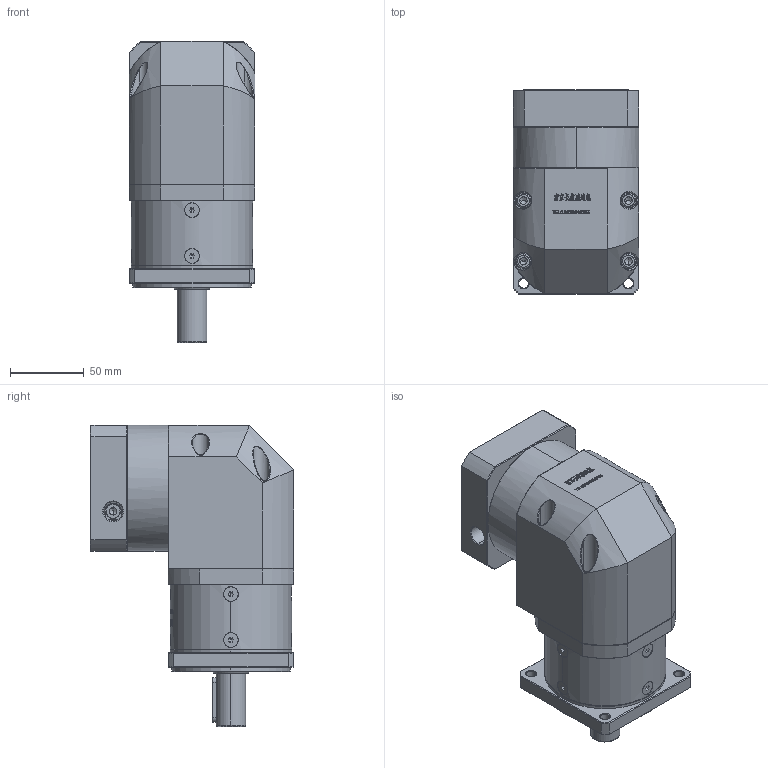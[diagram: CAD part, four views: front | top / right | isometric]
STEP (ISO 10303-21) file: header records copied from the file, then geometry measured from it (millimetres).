
FILE_DESCRIPTION (( 'STEP AP214' ), '1' );
FILE_NAME ('ZF80-D20-L1-19-70-90-M5.step', '2022-05-08T11:56:52', ( '' ), ( 'Microsoft' ), 'SwSTEP 2.0', 'SolidWorks 2016', '' );
FILE_SCHEMA (( 'AUTOMOTIVE_DESIGN' ));
Length unit declared in the file: millimetre
Products named in the file (1): ZF80-D20-L1-19-70-90-M5
Bounding box: 85 x 137.6 x 203.5 mm (x, y, z)
Volume: 1256220.6 mm3; surface area: 135025.8 mm2
Topology: 13 solids, 13 shells, 3084 faces, 8109 edges, 5173 vertices
Faces by surface type: plane 1619, bspline 624, cylinder 467, cone 360, torus 14
Entity records: 167928 total; most frequent: CARTESIAN_POINT 63775, ORIENTED_EDGE 16126, DIRECTION 12093, EDGE_CURVE 8063, VERTEX_POINT 5173, VECTOR 4995, LINE 4995, AXIS2_PLACEMENT_3D 3549
